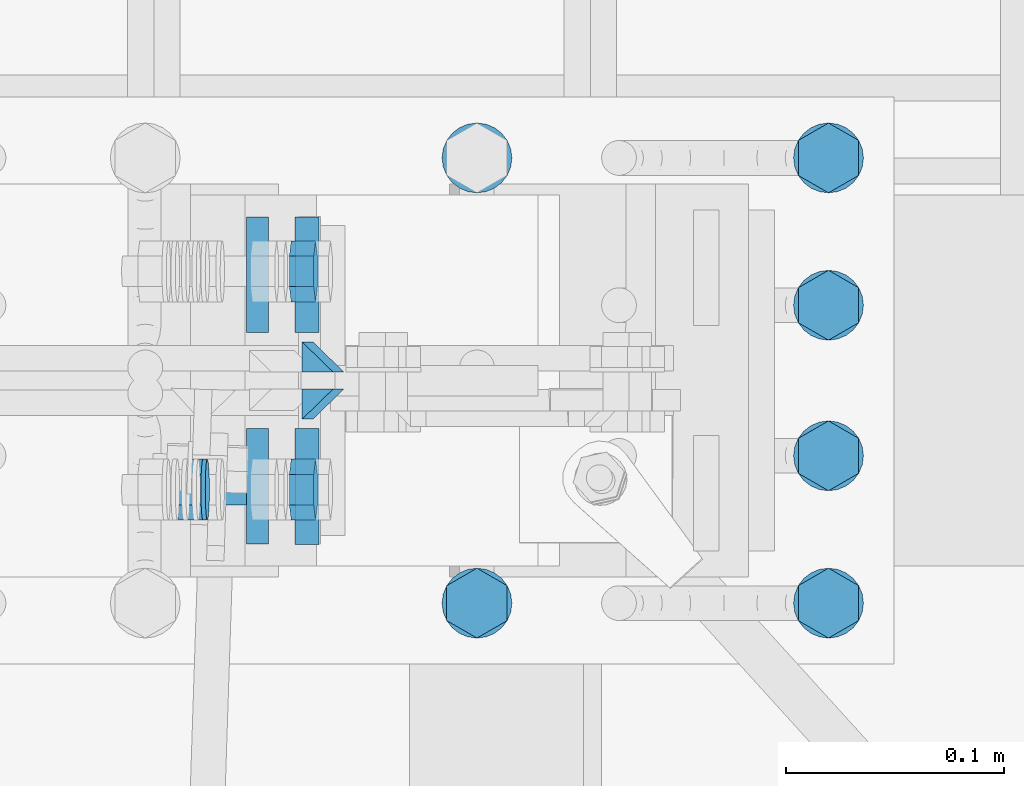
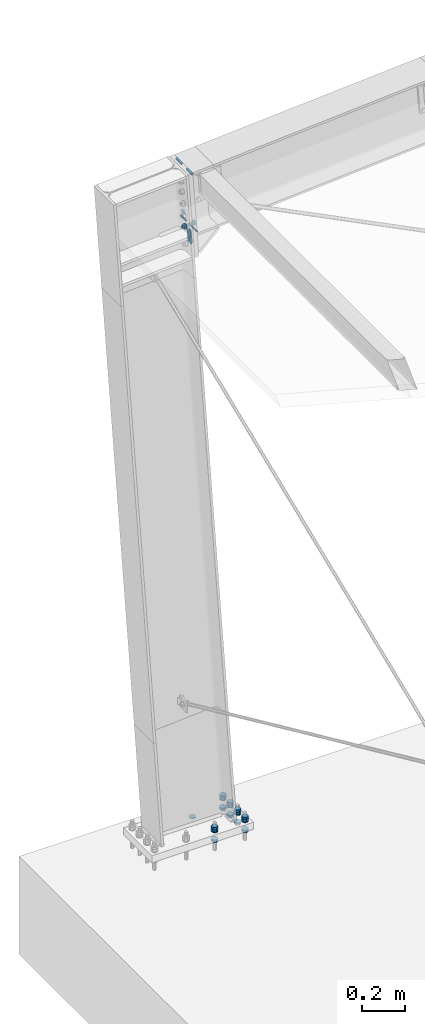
# One storey, part 66 of 72: 31 mechanical fasteners, 12 fasteners.
"""IFC4 building model written with IfcOpenShell, lengths in metres."""

from ifc_helpers import new_model, si_unit, frame, origin_with_axes, place, context, project, spatial, polyline, outline, extrude, type_object, element, save


model = new_model("IFC4")

# Units and contexts
model_context = context("Model", 3, precision=1e-05, world=origin_with_axes())
ifc_project = project(units=[si_unit("LENGTHUNIT", "METRE"), si_unit("AREAUNIT", "SQUARE_METRE"), si_unit("VOLUMEUNIT", "CUBIC_METRE"), si_unit("MASSUNIT", "GRAM", prefix="KILO"), si_unit("TIMEUNIT", "SECOND"), si_unit("PLANEANGLEUNIT", "RADIAN"), si_unit("SOLIDANGLEUNIT", "STERADIAN"), si_unit("THERMODYNAMICTEMPERATUREUNIT", "DEGREE_CELSIUS")], contexts=[model_context])

# Site, building, storey
placement_1 = place(None, origin_with_axes())
site = spatial("IfcSite", under=ifc_project, at=placement_1, Name="Italia", CompositionType="ELEMENT")
building = spatial("IfcBuilding", under=site, at=placement_1, Name="Pensilina", CompositionType="ELEMENT")
storey = spatial("IfcBuildingStorey", under=building, at=placement_1, Name="Storey 0", CompositionType="ELEMENT", Elevation=0.0)

# Mechanical fasteners
mechanical_fastener_type_1 = type_object("IfcMechanicalFastenerType", Name="Collegamento 0005_-200", PredefinedType="BOLT")
placement_2 = place(placement_1, origin_with_axes())
mechanical_fastener_1_placement = place(placement_2, origin_with_axes())
element("IfcMechanicalFastener", 1, at=mechanical_fastener_1_placement, inside=storey, type_object=mechanical_fastener_type_1, Name="Collegamento 0005_-200", NominalDiameter=0.032, context=model_context, shape_type="SweptSolid", body=[
    extrude(outline(polyline([(0.0, 0.0, 0.0), (-0.000545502, -0.00414109, 0.0), (-0.00214386, -0.00800002, 0.0), (-0.00468636, -0.0113137, 0.0), (-0.00800133, -0.0138564, 0.0), (-0.0118599, -0.0154548, 0.0), (-0.0160007, -0.016, 0.0), (-0.0201416, -0.0154548, 0.0), (-0.0240002, -0.0138564, 0.0), (-0.0273151, -0.0113137, 0.0), (-0.0298576, -0.00800002, 0.0), (-0.031456, -0.00414109, 0.0), (-0.0320015, 0.0, 0.0), (-0.031456, 0.00414109, 0.0), (-0.0298576, 0.00800002, 0.0), (-0.0273151, 0.0113137, 0.0), (-0.0240002, 0.0138564, 0.0), (-0.0201416, 0.0154548, 0.0), (-0.0160007, 0.016, 0.0), (-0.0118599, 0.0154548, 0.0), (-0.00800133, 0.0138564, 0.0), (-0.00468636, 0.0113137, 0.0), (-0.00214386, 0.00800002, 0.0), (-0.000545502, 0.00414109, 0.0), (0.0, 0.0, 0.0)])), frame((1.00805, 21.238, 0.0597081), z_axis=(0.0, 0.0, 1.0), x_axis=(0.0, 1.0, 0.0)), (0.0, 0.0, 1.0), 0.004),
])
mechanical_fastener_type_2 = type_object("IfcMechanicalFastenerType", Name="Collegamento 0005_-200", PredefinedType="BOLT")
mechanical_fastener_2_placement = place(placement_2, origin_with_axes())
element("IfcMechanicalFastener", 2, at=mechanical_fastener_2_placement, inside=storey, type_object=mechanical_fastener_type_2, Name="Collegamento 0005_-200", NominalDiameter=0.0159997, context=model_context, shape_type="SweptSolid", body=[
    extrude(outline(polyline([(0.0, 0.0, 0.0), (0.0160007, 0.0, 0.0), (0.0240002, -0.0138565, 0.0), (0.0160007, -0.0277129, 0.0), (0.0, -0.0277129, 0.0), (-0.00799942, -0.0138565, 0.0), (0.0, 0.0, 0.0)])), frame((0.99419, 21.01, 0.107708), z_axis=(0.0, 0.0, 1.0), x_axis=(0.0, 1.0, 0.0)), (0.0, 0.0, 1.0), 0.0128),
])
mechanical_fastener_type_3 = type_object("IfcMechanicalFastenerType", Name="Collegamento 0005_-200", PredefinedType="BOLT")
mechanical_fastener_3_placement = place(placement_2, origin_with_axes())
element("IfcMechanicalFastener", 3, at=mechanical_fastener_3_placement, inside=storey, type_object=mechanical_fastener_type_3, Name="Collegamento 0005_-200", NominalDiameter=0.0159997, context=model_context, shape_type="SweptSolid", body=[
    extrude(outline(polyline([(0.0, 0.0, 0.0), (0.0160007, 0.0, 0.0), (0.0240002, -0.0138565, 0.0), (0.0160007, -0.0277129, 0.0), (0.0, -0.0277129, 0.0), (-0.00799942, -0.0138565, 0.0), (0.0, 0.0, 0.0)])), frame((0.99419, 21.01, 0.120508), z_axis=(0.0, 0.0, 1.0), x_axis=(0.0, 1.0, 0.0)), (0.0, 0.0, 1.0), 0.0128),
])
mechanical_fastener_type_4 = type_object("IfcMechanicalFastenerType", Name="Collegamento 0005_-200", PredefinedType="BOLT")
mechanical_fastener_4_placement = place(placement_2, origin_with_axes())
element("IfcMechanicalFastener", 4, at=mechanical_fastener_4_placement, inside=storey, type_object=mechanical_fastener_type_4, Name="Collegamento 0005_-200", NominalDiameter=0.0159997, context=model_context, shape_type="SweptSolid", body=[
    extrude(outline(polyline([(0.0, 0.0, 0.0), (0.0160007, 0.0, 0.0), (0.0240002, -0.0138565, 0.0), (0.0160007, -0.0277129, 0.0), (0.0, -0.0277129, 0.0), (-0.00799942, -0.0138565, 0.0), (0.0, 0.0, 0.0)])), frame((0.99419, 21.01, 0.0469081), z_axis=(0.0, 0.0, 1.0), x_axis=(0.0, 1.0, 0.0)), (0.0, 0.0, 1.0), 0.0128),
])
mechanical_fastener_type_5 = type_object("IfcMechanicalFastenerType", Name="Collegamento 0005_-200", PredefinedType="BOLT")
mechanical_fastener_5_placement = place(placement_2, origin_with_axes())
element("IfcMechanicalFastener", 5, at=mechanical_fastener_5_placement, inside=storey, type_object=mechanical_fastener_type_5, Name="Collegamento 0005_-200", NominalDiameter=0.032, context=model_context, shape_type="SweptSolid", body=[
    extrude(outline(polyline([(0.0, 0.0, 0.0), (-0.000545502, -0.00414109, 0.0), (-0.00214386, -0.00800002, 0.0), (-0.00468636, -0.0113137, 0.0), (-0.00800133, -0.0138564, 0.0), (-0.0118599, -0.0154548, 0.0), (-0.0160007, -0.016, 0.0), (-0.0201416, -0.0154548, 0.0), (-0.0240002, -0.0138564, 0.0), (-0.0273151, -0.0113137, 0.0), (-0.0298576, -0.00800002, 0.0), (-0.031456, -0.00414109, 0.0), (-0.0320015, 0.0, 0.0), (-0.031456, 0.00414109, 0.0), (-0.0298576, 0.00800002, 0.0), (-0.0273151, 0.0113137, 0.0), (-0.0240002, 0.0138564, 0.0), (-0.0201416, 0.0154548, 0.0), (-0.0160007, 0.016, 0.0), (-0.0118599, 0.0154548, 0.0), (-0.00800133, 0.0138564, 0.0), (-0.00468636, 0.0113137, 0.0), (-0.00214386, 0.00800002, 0.0), (-0.000545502, 0.00414109, 0.0), (0.0, 0.0, 0.0)])), frame((1.00805, 21.034, 0.103708), z_axis=(0.0, 0.0, 1.0), x_axis=(0.0, 1.0, 0.0)), (0.0, 0.0, 1.0), 0.004),
])
mechanical_fastener_type_6 = type_object("IfcMechanicalFastenerType", Name="Collegamento 0005_-200", PredefinedType="BOLT")
mechanical_fastener_6_placement = place(placement_2, origin_with_axes())
element("IfcMechanicalFastener", 6, at=mechanical_fastener_6_placement, inside=storey, type_object=mechanical_fastener_type_6, Name="Collegamento 0005_-200", NominalDiameter=0.032, context=model_context, shape_type="SweptSolid", body=[
    extrude(outline(polyline([(0.0, 0.0, 0.0), (-0.000545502, -0.00414109, 0.0), (-0.00214386, -0.00800002, 0.0), (-0.00468636, -0.0113137, 0.0), (-0.00800133, -0.0138564, 0.0), (-0.0118599, -0.0154548, 0.0), (-0.0160007, -0.016, 0.0), (-0.0201416, -0.0154548, 0.0), (-0.0240002, -0.0138564, 0.0), (-0.0273151, -0.0113137, 0.0), (-0.0298576, -0.00800002, 0.0), (-0.031456, -0.00414109, 0.0), (-0.0320015, 0.0, 0.0), (-0.031456, 0.00414109, 0.0), (-0.0298576, 0.00800002, 0.0), (-0.0273151, 0.0113137, 0.0), (-0.0240002, 0.0138564, 0.0), (-0.0201416, 0.0154548, 0.0), (-0.0160007, 0.016, 0.0), (-0.0118599, 0.0154548, 0.0), (-0.00800133, 0.0138564, 0.0), (-0.00468636, 0.0113137, 0.0), (-0.00214386, 0.00800002, 0.0), (-0.000545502, 0.00414109, 0.0), (0.0, 0.0, 0.0)])), frame((1.00805, 21.034, 0.0597081), z_axis=(0.0, 0.0, 1.0), x_axis=(0.0, 1.0, 0.0)), (0.0, 0.0, 1.0), 0.004),
])
mechanical_fastener_type_7 = type_object("IfcMechanicalFastenerType", Name="Collegamento 0005_-200", PredefinedType="BOLT")
mechanical_fastener_7_placement = place(placement_2, origin_with_axes())
element("IfcMechanicalFastener", 7, at=mechanical_fastener_7_placement, inside=storey, type_object=mechanical_fastener_type_7, Name="Collegamento 0005_-200", NominalDiameter=0.0159997, context=model_context, shape_type="SweptSolid", body=[
    extrude(outline(polyline([(0.0, 0.0, 0.0), (0.0160007, 0.0, 0.0), (0.0240002, -0.0138564, 0.0), (0.0160007, -0.0277128, 0.0), (0.0, -0.0277128, 0.0), (-0.00799942, -0.0138564, 0.0), (0.0, 0.0, 0.0)])), frame((1.15527, 21.214, 0.107708), z_axis=(0.0, 0.0, 1.0), x_axis=(0.0, 1.0, 0.0)), (0.0, 0.0, 1.0), 0.0128),
])
mechanical_fastener_type_8 = type_object("IfcMechanicalFastenerType", Name="Collegamento 0005_-200", PredefinedType="BOLT")
mechanical_fastener_8_placement = place(placement_2, origin_with_axes())
element("IfcMechanicalFastener", 8, at=mechanical_fastener_8_placement, inside=storey, type_object=mechanical_fastener_type_8, Name="Collegamento 0005_-200", NominalDiameter=0.0159997, context=model_context, shape_type="SweptSolid", body=[
    extrude(outline(polyline([(0.0, 0.0, 0.0), (0.0160007, 0.0, 0.0), (0.0240002, -0.0138564, 0.0), (0.0160007, -0.0277128, 0.0), (0.0, -0.0277128, 0.0), (-0.00799942, -0.0138564, 0.0), (0.0, 0.0, 0.0)])), frame((1.15527, 21.214, 0.120508), z_axis=(0.0, 0.0, 1.0), x_axis=(0.0, 1.0, 0.0)), (0.0, 0.0, 1.0), 0.0128),
])
mechanical_fastener_type_9 = type_object("IfcMechanicalFastenerType", Name="Collegamento 0005_-200", PredefinedType="BOLT")
mechanical_fastener_9_placement = place(placement_2, origin_with_axes())
element("IfcMechanicalFastener", 9, at=mechanical_fastener_9_placement, inside=storey, type_object=mechanical_fastener_type_9, Name="Collegamento 0005_-200", NominalDiameter=0.0159997, context=model_context, shape_type="SweptSolid", body=[
    extrude(outline(polyline([(0.0, 0.0, 0.0), (0.0160007, 0.0, 0.0), (0.0240002, -0.0138564, 0.0), (0.0160007, -0.0277128, 0.0), (0.0, -0.0277128, 0.0), (-0.00799942, -0.0138564, 0.0), (0.0, 0.0, 0.0)])), frame((1.15527, 21.214, 0.0469081), z_axis=(0.0, 0.0, 1.0), x_axis=(0.0, 1.0, 0.0)), (0.0, 0.0, 1.0), 0.0128),
])
mechanical_fastener_type_10 = type_object("IfcMechanicalFastenerType", Name="Collegamento 0005_-200", PredefinedType="BOLT")
mechanical_fastener_10_placement = place(placement_2, origin_with_axes())
element("IfcMechanicalFastener", 10, at=mechanical_fastener_10_placement, inside=storey, type_object=mechanical_fastener_type_10, Name="Collegamento 0005_-200", NominalDiameter=0.032, context=model_context, shape_type="SweptSolid", body=[
    extrude(outline(polyline([(0.0, 0.0, 0.0), (-0.000545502, -0.00414109, 0.0), (-0.00214386, -0.00800002, 0.0), (-0.00468636, -0.0113137, 0.0), (-0.00800133, -0.0138564, 0.0), (-0.0118599, -0.0154548, 0.0), (-0.0160007, -0.016, 0.0), (-0.0201416, -0.0154548, 0.0), (-0.0240002, -0.0138564, 0.0), (-0.0273151, -0.0113137, 0.0), (-0.0298576, -0.00800002, 0.0), (-0.031456, -0.00414109, 0.0), (-0.0320015, 0.0, 0.0), (-0.031456, 0.00414109, 0.0), (-0.0298576, 0.00800002, 0.0), (-0.0273151, 0.0113137, 0.0), (-0.0240002, 0.0138564, 0.0), (-0.0201416, 0.0154548, 0.0), (-0.0160007, 0.016, 0.0), (-0.0118599, 0.0154548, 0.0), (-0.00800133, 0.0138564, 0.0), (-0.00468636, 0.0113137, 0.0), (-0.00214386, 0.00800002, 0.0), (-0.000545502, 0.00414109, 0.0), (0.0, 0.0, 0.0)])), frame((1.16913, 21.238, 0.103708), z_axis=(0.0, 0.0, 1.0), x_axis=(0.0, 1.0, 0.0)), (0.0, 0.0, 1.0), 0.004),
])
mechanical_fastener_type_11 = type_object("IfcMechanicalFastenerType", Name="Collegamento 0005_-200", PredefinedType="BOLT")
mechanical_fastener_11_placement = place(placement_2, origin_with_axes())
element("IfcMechanicalFastener", 11, at=mechanical_fastener_11_placement, inside=storey, type_object=mechanical_fastener_type_11, Name="Collegamento 0005_-200", NominalDiameter=0.032, context=model_context, shape_type="SweptSolid", body=[
    extrude(outline(polyline([(0.0, 0.0, 0.0), (-0.000545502, -0.00414109, 0.0), (-0.00214386, -0.00800002, 0.0), (-0.00468636, -0.0113137, 0.0), (-0.00800133, -0.0138564, 0.0), (-0.0118599, -0.0154548, 0.0), (-0.0160007, -0.016, 0.0), (-0.0201416, -0.0154548, 0.0), (-0.0240002, -0.0138564, 0.0), (-0.0273151, -0.0113137, 0.0), (-0.0298576, -0.00800002, 0.0), (-0.031456, -0.00414109, 0.0), (-0.0320015, 0.0, 0.0), (-0.031456, 0.00414109, 0.0), (-0.0298576, 0.00800002, 0.0), (-0.0273151, 0.0113137, 0.0), (-0.0240002, 0.0138564, 0.0), (-0.0201416, 0.0154548, 0.0), (-0.0160007, 0.016, 0.0), (-0.0118599, 0.0154548, 0.0), (-0.00800133, 0.0138564, 0.0), (-0.00468636, 0.0113137, 0.0), (-0.00214386, 0.00800002, 0.0), (-0.000545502, 0.00414109, 0.0), (0.0, 0.0, 0.0)])), frame((1.16913, 21.238, 0.0597081), z_axis=(0.0, 0.0, 1.0), x_axis=(0.0, 1.0, 0.0)), (0.0, 0.0, 1.0), 0.004),
])
mechanical_fastener_type_12 = type_object("IfcMechanicalFastenerType", Name="Collegamento 0005_-200", PredefinedType="BOLT")
mechanical_fastener_12_placement = place(placement_2, origin_with_axes())
element("IfcMechanicalFastener", 12, at=mechanical_fastener_12_placement, inside=storey, type_object=mechanical_fastener_type_12, Name="Collegamento 0005_-200", NominalDiameter=0.0159988, context=model_context, shape_type="SweptSolid", body=[
    extrude(outline(polyline([(0.0, 0.0, 0.0), (0.0159988, 0.0, 0.0), (0.0240002, -0.0138564, 0.0), (0.0159988, -0.0277128, 0.0), (0.0, -0.0277128, 0.0), (-0.00800133, -0.0138564, 0.0), (0.0, 0.0, 0.0)])), frame((1.15527, 21.1465, 0.107708), z_axis=(0.0, 0.0, 1.0), x_axis=(0.0, 1.0, 0.0)), (0.0, 0.0, 1.0), 0.0128),
])
mechanical_fastener_type_13 = type_object("IfcMechanicalFastenerType", Name="Collegamento 0005_-200", PredefinedType="BOLT")
mechanical_fastener_13_placement = place(placement_2, origin_with_axes())
element("IfcMechanicalFastener", 13, at=mechanical_fastener_13_placement, inside=storey, type_object=mechanical_fastener_type_13, Name="Collegamento 0005_-200", NominalDiameter=0.0159988, context=model_context, shape_type="SweptSolid", body=[
    extrude(outline(polyline([(0.0, 0.0, 0.0), (0.0159988, 0.0, 0.0), (0.0240002, -0.0138564, 0.0), (0.0159988, -0.0277128, 0.0), (0.0, -0.0277128, 0.0), (-0.00800133, -0.0138564, 0.0), (0.0, 0.0, 0.0)])), frame((1.15527, 21.1465, 0.120508), z_axis=(0.0, 0.0, 1.0), x_axis=(0.0, 1.0, 0.0)), (0.0, 0.0, 1.0), 0.0128),
])
mechanical_fastener_type_14 = type_object("IfcMechanicalFastenerType", Name="Collegamento 0005_-200", PredefinedType="BOLT")
mechanical_fastener_14_placement = place(placement_2, origin_with_axes())
element("IfcMechanicalFastener", 14, at=mechanical_fastener_14_placement, inside=storey, type_object=mechanical_fastener_type_14, Name="Collegamento 0005_-200", NominalDiameter=0.0159988, context=model_context, shape_type="SweptSolid", body=[
    extrude(outline(polyline([(0.0, 0.0, 0.0), (0.0159988, 0.0, 0.0), (0.0240002, -0.0138564, 0.0), (0.0159988, -0.0277128, 0.0), (0.0, -0.0277128, 0.0), (-0.00800133, -0.0138564, 0.0), (0.0, 0.0, 0.0)])), frame((1.15527, 21.1465, 0.0469081), z_axis=(0.0, 0.0, 1.0), x_axis=(0.0, 1.0, 0.0)), (0.0, 0.0, 1.0), 0.0128),
])
mechanical_fastener_type_15 = type_object("IfcMechanicalFastenerType", Name="Collegamento 0005_-200", PredefinedType="BOLT")
mechanical_fastener_15_placement = place(placement_2, origin_with_axes())
element("IfcMechanicalFastener", 15, at=mechanical_fastener_15_placement, inside=storey, type_object=mechanical_fastener_type_15, Name="Collegamento 0005_-200", NominalDiameter=0.032, context=model_context, shape_type="SweptSolid", body=[
    extrude(outline(polyline([(0.0, 0.0, 0.0), (-0.000545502, -0.00414109, 0.0), (-0.00214386, -0.00800002, 0.0), (-0.00468636, -0.0113137, 0.0), (-0.00800133, -0.0138564, 0.0), (-0.0118599, -0.0154548, 0.0), (-0.0160007, -0.016, 0.0), (-0.0201416, -0.0154548, 0.0), (-0.0240002, -0.0138564, 0.0), (-0.0273151, -0.0113137, 0.0), (-0.0298576, -0.00800002, 0.0), (-0.031456, -0.00414109, 0.0), (-0.0320015, 0.0, 0.0), (-0.031456, 0.00414109, 0.0), (-0.0298576, 0.00800002, 0.0), (-0.0273151, 0.0113137, 0.0), (-0.0240002, 0.0138564, 0.0), (-0.0201416, 0.0154548, 0.0), (-0.0160007, 0.016, 0.0), (-0.0118599, 0.0154548, 0.0), (-0.00800133, 0.0138564, 0.0), (-0.00468636, 0.0113137, 0.0), (-0.00214386, 0.00800002, 0.0), (-0.000545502, 0.00414109, 0.0), (0.0, 0.0, 0.0)])), frame((1.16913, 21.1705, 0.103708), z_axis=(0.0, 0.0, 1.0), x_axis=(0.0, 1.0, 0.0)), (0.0, 0.0, 1.0), 0.004),
])
mechanical_fastener_type_16 = type_object("IfcMechanicalFastenerType", Name="Collegamento 0005_-200", PredefinedType="BOLT")
mechanical_fastener_16_placement = place(placement_2, origin_with_axes())
element("IfcMechanicalFastener", 16, at=mechanical_fastener_16_placement, inside=storey, type_object=mechanical_fastener_type_16, Name="Collegamento 0005_-200", NominalDiameter=0.032, context=model_context, shape_type="SweptSolid", body=[
    extrude(outline(polyline([(0.0, 0.0, 0.0), (-0.000545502, -0.00414109, 0.0), (-0.00214386, -0.00800002, 0.0), (-0.00468636, -0.0113137, 0.0), (-0.00800133, -0.0138564, 0.0), (-0.0118599, -0.0154548, 0.0), (-0.0160007, -0.016, 0.0), (-0.0201416, -0.0154548, 0.0), (-0.0240002, -0.0138564, 0.0), (-0.0273151, -0.0113137, 0.0), (-0.0298576, -0.00800002, 0.0), (-0.031456, -0.00414109, 0.0), (-0.0320015, 0.0, 0.0), (-0.031456, 0.00414109, 0.0), (-0.0298576, 0.00800002, 0.0), (-0.0273151, 0.0113137, 0.0), (-0.0240002, 0.0138564, 0.0), (-0.0201416, 0.0154548, 0.0), (-0.0160007, 0.016, 0.0), (-0.0118599, 0.0154548, 0.0), (-0.00800133, 0.0138564, 0.0), (-0.00468636, 0.0113137, 0.0), (-0.00214386, 0.00800002, 0.0), (-0.000545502, 0.00414109, 0.0), (0.0, 0.0, 0.0)])), frame((1.16913, 21.1705, 0.0597081), z_axis=(0.0, 0.0, 1.0), x_axis=(0.0, 1.0, 0.0)), (0.0, 0.0, 1.0), 0.004),
])
mechanical_fastener_type_17 = type_object("IfcMechanicalFastenerType", Name="Collegamento 0005_-200", PredefinedType="BOLT")
mechanical_fastener_17_placement = place(placement_2, origin_with_axes())
element("IfcMechanicalFastener", 17, at=mechanical_fastener_17_placement, inside=storey, type_object=mechanical_fastener_type_17, Name="Collegamento 0005_-200", NominalDiameter=0.0159988, context=model_context, shape_type="SweptSolid", body=[
    extrude(outline(polyline([(0.0, 0.0, 0.0), (0.0159988, 0.0, 0.0), (0.0240002, -0.0138564, 0.0), (0.0159988, -0.0277128, 0.0), (0.0, -0.0277128, 0.0), (-0.00800133, -0.0138564, 0.0), (0.0, 0.0, 0.0)])), frame((1.15527, 21.0775, 0.107708), z_axis=(0.0, 0.0, 1.0), x_axis=(0.0, 1.0, 0.0)), (0.0, 0.0, 1.0), 0.0128),
])
mechanical_fastener_type_18 = type_object("IfcMechanicalFastenerType", Name="Collegamento 0005_-200", PredefinedType="BOLT")
mechanical_fastener_18_placement = place(placement_2, origin_with_axes())
element("IfcMechanicalFastener", 18, at=mechanical_fastener_18_placement, inside=storey, type_object=mechanical_fastener_type_18, Name="Collegamento 0005_-200", NominalDiameter=0.0159988, context=model_context, shape_type="SweptSolid", body=[
    extrude(outline(polyline([(0.0, 0.0, 0.0), (0.0159988, 0.0, 0.0), (0.0240002, -0.0138564, 0.0), (0.0159988, -0.0277128, 0.0), (0.0, -0.0277128, 0.0), (-0.00800133, -0.0138564, 0.0), (0.0, 0.0, 0.0)])), frame((1.15527, 21.0775, 0.120508), z_axis=(0.0, 0.0, 1.0), x_axis=(0.0, 1.0, 0.0)), (0.0, 0.0, 1.0), 0.0128),
])
mechanical_fastener_type_19 = type_object("IfcMechanicalFastenerType", Name="Collegamento 0005_-200", PredefinedType="BOLT")
mechanical_fastener_19_placement = place(placement_2, origin_with_axes())
element("IfcMechanicalFastener", 19, at=mechanical_fastener_19_placement, inside=storey, type_object=mechanical_fastener_type_19, Name="Collegamento 0005_-200", NominalDiameter=0.0159988, context=model_context, shape_type="SweptSolid", body=[
    extrude(outline(polyline([(0.0, 0.0, 0.0), (0.0159988, 0.0, 0.0), (0.0240002, -0.0138564, 0.0), (0.0159988, -0.0277128, 0.0), (0.0, -0.0277128, 0.0), (-0.00800133, -0.0138564, 0.0), (0.0, 0.0, 0.0)])), frame((1.15527, 21.0775, 0.0469081), z_axis=(0.0, 0.0, 1.0), x_axis=(0.0, 1.0, 0.0)), (0.0, 0.0, 1.0), 0.0128),
])
mechanical_fastener_type_20 = type_object("IfcMechanicalFastenerType", Name="Collegamento 0005_-200", PredefinedType="BOLT")
mechanical_fastener_20_placement = place(placement_2, origin_with_axes())
element("IfcMechanicalFastener", 20, at=mechanical_fastener_20_placement, inside=storey, type_object=mechanical_fastener_type_20, Name="Collegamento 0005_-200", NominalDiameter=0.032, context=model_context, shape_type="SweptSolid", body=[
    extrude(outline(polyline([(0.0, 0.0, 0.0), (-0.000545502, -0.00414109, 0.0), (-0.00214386, -0.00800002, 0.0), (-0.00468636, -0.0113137, 0.0), (-0.00800133, -0.0138564, 0.0), (-0.0118599, -0.0154548, 0.0), (-0.0160007, -0.016, 0.0), (-0.0201416, -0.0154548, 0.0), (-0.0240002, -0.0138564, 0.0), (-0.0273151, -0.0113137, 0.0), (-0.0298576, -0.00800002, 0.0), (-0.031456, -0.00414109, 0.0), (-0.0320015, 0.0, 0.0), (-0.031456, 0.00414109, 0.0), (-0.0298576, 0.00800002, 0.0), (-0.0273151, 0.0113137, 0.0), (-0.0240002, 0.0138564, 0.0), (-0.0201416, 0.0154548, 0.0), (-0.0160007, 0.016, 0.0), (-0.0118599, 0.0154548, 0.0), (-0.00800133, 0.0138564, 0.0), (-0.00468636, 0.0113137, 0.0), (-0.00214386, 0.00800002, 0.0), (-0.000545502, 0.00414109, 0.0), (0.0, 0.0, 0.0)])), frame((1.16913, 21.1015, 0.103708), z_axis=(0.0, 0.0, 1.0), x_axis=(0.0, 1.0, 0.0)), (0.0, 0.0, 1.0), 0.004),
])
mechanical_fastener_type_21 = type_object("IfcMechanicalFastenerType", Name="Collegamento 0005_-200", PredefinedType="BOLT")
mechanical_fastener_21_placement = place(placement_2, origin_with_axes())
element("IfcMechanicalFastener", 21, at=mechanical_fastener_21_placement, inside=storey, type_object=mechanical_fastener_type_21, Name="Collegamento 0005_-200", NominalDiameter=0.032, context=model_context, shape_type="SweptSolid", body=[
    extrude(outline(polyline([(0.0, 0.0, 0.0), (-0.000545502, -0.00414109, 0.0), (-0.00214386, -0.00800002, 0.0), (-0.00468636, -0.0113137, 0.0), (-0.00800133, -0.0138564, 0.0), (-0.0118599, -0.0154548, 0.0), (-0.0160007, -0.016, 0.0), (-0.0201416, -0.0154548, 0.0), (-0.0240002, -0.0138564, 0.0), (-0.0273151, -0.0113137, 0.0), (-0.0298576, -0.00800002, 0.0), (-0.031456, -0.00414109, 0.0), (-0.0320015, 0.0, 0.0), (-0.031456, 0.00414109, 0.0), (-0.0298576, 0.00800002, 0.0), (-0.0273151, 0.0113137, 0.0), (-0.0240002, 0.0138564, 0.0), (-0.0201416, 0.0154548, 0.0), (-0.0160007, 0.016, 0.0), (-0.0118599, 0.0154548, 0.0), (-0.00800133, 0.0138564, 0.0), (-0.00468636, 0.0113137, 0.0), (-0.00214386, 0.00800002, 0.0), (-0.000545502, 0.00414109, 0.0), (0.0, 0.0, 0.0)])), frame((1.16913, 21.1015, 0.0597081), z_axis=(0.0, 0.0, 1.0), x_axis=(0.0, 1.0, 0.0)), (0.0, 0.0, 1.0), 0.004),
])
mechanical_fastener_type_22 = type_object("IfcMechanicalFastenerType", Name="Collegamento 0005_-200", PredefinedType="BOLT")
mechanical_fastener_22_placement = place(placement_2, origin_with_axes())
element("IfcMechanicalFastener", 22, at=mechanical_fastener_22_placement, inside=storey, type_object=mechanical_fastener_type_22, Name="Collegamento 0005_-200", NominalDiameter=0.0159997, context=model_context, shape_type="SweptSolid", body=[
    extrude(outline(polyline([(0.0, 0.0, 0.0), (0.0160007, 0.0, 0.0), (0.0240002, -0.0138564, 0.0), (0.0160007, -0.0277128, 0.0), (0.0, -0.0277128, 0.0), (-0.00799942, -0.0138564, 0.0), (0.0, 0.0, 0.0)])), frame((1.15527, 21.01, 0.107708), z_axis=(0.0, 0.0, 1.0), x_axis=(0.0, 1.0, 0.0)), (0.0, 0.0, 1.0), 0.0128),
])
mechanical_fastener_type_23 = type_object("IfcMechanicalFastenerType", Name="Collegamento 0005_-200", PredefinedType="BOLT")
mechanical_fastener_23_placement = place(placement_2, origin_with_axes())
element("IfcMechanicalFastener", 23, at=mechanical_fastener_23_placement, inside=storey, type_object=mechanical_fastener_type_23, Name="Collegamento 0005_-200", NominalDiameter=0.0159997, context=model_context, shape_type="SweptSolid", body=[
    extrude(outline(polyline([(0.0, 0.0, 0.0), (0.0160007, 0.0, 0.0), (0.0240002, -0.0138564, 0.0), (0.0160007, -0.0277128, 0.0), (0.0, -0.0277128, 0.0), (-0.00799942, -0.0138564, 0.0), (0.0, 0.0, 0.0)])), frame((1.15527, 21.01, 0.120508), z_axis=(0.0, 0.0, 1.0), x_axis=(0.0, 1.0, 0.0)), (0.0, 0.0, 1.0), 0.0128),
])
mechanical_fastener_type_24 = type_object("IfcMechanicalFastenerType", Name="Collegamento 0005_-200", PredefinedType="BOLT")
mechanical_fastener_24_placement = place(placement_2, origin_with_axes())
element("IfcMechanicalFastener", 24, at=mechanical_fastener_24_placement, inside=storey, type_object=mechanical_fastener_type_24, Name="Collegamento 0005_-200", NominalDiameter=0.0159997, context=model_context, shape_type="SweptSolid", body=[
    extrude(outline(polyline([(0.0, 0.0, 0.0), (0.0160007, 0.0, 0.0), (0.0240002, -0.0138564, 0.0), (0.0160007, -0.0277128, 0.0), (0.0, -0.0277128, 0.0), (-0.00799942, -0.0138564, 0.0), (0.0, 0.0, 0.0)])), frame((1.15527, 21.01, 0.0469081), z_axis=(0.0, 0.0, 1.0), x_axis=(0.0, 1.0, 0.0)), (0.0, 0.0, 1.0), 0.0128),
])
mechanical_fastener_type_25 = type_object("IfcMechanicalFastenerType", Name="Collegamento 0005_-200", PredefinedType="BOLT")
mechanical_fastener_25_placement = place(placement_2, origin_with_axes())
element("IfcMechanicalFastener", 25, at=mechanical_fastener_25_placement, inside=storey, type_object=mechanical_fastener_type_25, Name="Collegamento 0005_-200", NominalDiameter=0.032, context=model_context, shape_type="SweptSolid", body=[
    extrude(outline(polyline([(0.0, 0.0, 0.0), (-0.000545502, -0.00414109, 0.0), (-0.00214386, -0.00800002, 0.0), (-0.00468636, -0.0113137, 0.0), (-0.00800133, -0.0138564, 0.0), (-0.0118599, -0.0154548, 0.0), (-0.0160007, -0.016, 0.0), (-0.0201416, -0.0154548, 0.0), (-0.0240002, -0.0138564, 0.0), (-0.0273151, -0.0113137, 0.0), (-0.0298576, -0.00800002, 0.0), (-0.031456, -0.00414109, 0.0), (-0.0320015, 0.0, 0.0), (-0.031456, 0.00414109, 0.0), (-0.0298576, 0.00800002, 0.0), (-0.0273151, 0.0113137, 0.0), (-0.0240002, 0.0138564, 0.0), (-0.0201416, 0.0154548, 0.0), (-0.0160007, 0.016, 0.0), (-0.0118599, 0.0154548, 0.0), (-0.00800133, 0.0138564, 0.0), (-0.00468636, 0.0113137, 0.0), (-0.00214386, 0.00800002, 0.0), (-0.000545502, 0.00414109, 0.0), (0.0, 0.0, 0.0)])), frame((1.16913, 21.034, 0.103708), z_axis=(0.0, 0.0, 1.0), x_axis=(0.0, 1.0, 0.0)), (0.0, 0.0, 1.0), 0.004),
])
mechanical_fastener_type_26 = type_object("IfcMechanicalFastenerType", Name="Collegamento 0005_-200", PredefinedType="BOLT")
mechanical_fastener_26_placement = place(placement_2, origin_with_axes())
element("IfcMechanicalFastener", 26, at=mechanical_fastener_26_placement, inside=storey, type_object=mechanical_fastener_type_26, Name="Collegamento 0005_-200", NominalDiameter=0.032, context=model_context, shape_type="SweptSolid", body=[
    extrude(outline(polyline([(0.0, 0.0, 0.0), (-0.000545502, -0.00414109, 0.0), (-0.00214386, -0.00800002, 0.0), (-0.00468636, -0.0113137, 0.0), (-0.00800133, -0.0138564, 0.0), (-0.0118599, -0.0154548, 0.0), (-0.0160007, -0.016, 0.0), (-0.0201416, -0.0154548, 0.0), (-0.0240002, -0.0138564, 0.0), (-0.0273151, -0.0113137, 0.0), (-0.0298576, -0.00800002, 0.0), (-0.031456, -0.00414109, 0.0), (-0.0320015, 0.0, 0.0), (-0.031456, 0.00414109, 0.0), (-0.0298576, 0.00800002, 0.0), (-0.0273151, 0.0113137, 0.0), (-0.0240002, 0.0138564, 0.0), (-0.0201416, 0.0154548, 0.0), (-0.0160007, 0.016, 0.0), (-0.0118599, 0.0154548, 0.0), (-0.00800133, 0.0138564, 0.0), (-0.00468636, 0.0113137, 0.0), (-0.00214386, 0.00800002, 0.0), (-0.000545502, 0.00414109, 0.0), (0.0, 0.0, 0.0)])), frame((1.16913, 21.034, 0.0597081), z_axis=(0.0, 0.0, 1.0), x_axis=(0.0, 1.0, 0.0)), (0.0, 0.0, 1.0), 0.004),
])

# Fasteners
fastener_type_1 = type_object("IfcFastenerType", Name="Collegamento 0105_0205", PredefinedType="WELD")
fastener_1_placement = place(placement_2, origin_with_axes())
element("IfcFastener", 27, at=fastener_1_placement, inside=storey, type_object=fastener_type_1, Name="Collegamento 0105_0205", context=model_context, shape_type="SweptSolid", body=[
    extrude(outline(polyline([(0.0, 0.0, 0.0), (-0.00947309, 0.0105422, 0.0), (0.000676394, 0.00984502, 0.0), (0.0, 0.0, 0.0)])), frame((0.903157, 21.1419, 3.80624), z_axis=(0.0, 1.0, 0.0), x_axis=(-1.0, 0.0, 0.0)), (0.0, 0.0, 1.0), 0.0530987),
])
fastener_type_2 = type_object("IfcFastenerType", Name="Collegamento 0105_0205", PredefinedType="WELD")
fastener_2_placement = place(placement_2, origin_with_axes())
element("IfcFastener", 28, at=fastener_2_placement, inside=storey, type_object=fastener_type_2, Name="Collegamento 0105_0205", context=model_context, shape_type="SweptSolid", body=[
    extrude(outline(polyline([(0.0, 0.0, 0.0), (0.0108258, -0.00914764, 0.0), (0.000676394, -0.00984478, 0.0), (0.0, 0.0, 0.0)])), frame((0.924744, 21.195, 3.49202), z_axis=(0.0, -1.0, 0.0), x_axis=(1.0, 0.0, 0.0)), (0.0, 0.0, 1.0), 0.0530987),
])
fastener_type_3 = type_object("IfcFastenerType", Name="Collegamento 0105_0205", PredefinedType="WELD")
fastener_3_placement = place(placement_2, origin_with_axes())
element("IfcFastener", 29, at=fastener_3_placement, inside=storey, type_object=fastener_type_3, Name="Collegamento 0105_0205", context=model_context, shape_type="SweptSolid", body=[
    extrude(outline(polyline([(0.0, 0.0, 0.0), (0.0108258, -0.00914764, 0.0), (0.000676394, -0.00984478, 0.0), (0.0, 0.0, 0.0)])), frame((0.924744, 21.098, 3.49202), z_axis=(0.0, -1.0, 0.0), x_axis=(1.0, 0.0, 0.0)), (0.0, 0.0, 1.0), 0.0530987),
])
fastener_type_4 = type_object("IfcFastenerType", Name="Collegamento 0105_0205", PredefinedType="WELD")
fastener_4_placement = place(placement_2, origin_with_axes())
element("IfcFastener", 30, at=fastener_4_placement, inside=storey, type_object=fastener_type_4, Name="Collegamento 0105_0205", context=model_context, shape_type="SweptSolid", body=[
    extrude(outline(polyline([(0.0, 0.0, 0.0), (-0.00947309, 0.0105422, 0.0), (0.000676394, 0.00984502, 0.0), (0.0, 0.0, 0.0)])), frame((0.903157, 21.045, 3.80624), z_axis=(0.0, 1.0, 0.0), x_axis=(-1.0, 0.0, 0.0)), (0.0, 0.0, 1.0), 0.0530987),
])
fastener_type_5 = type_object("IfcFastenerType", Name="Collegamento 0105_0205", PredefinedType="WELD")
fastener_5_placement = place(placement_2, origin_with_axes())
element("IfcFastener", 31, at=fastener_5_placement, inside=storey, type_object=fastener_type_5, Name="Collegamento 0105_0205", context=model_context, shape_type="SweptSolid", body=[
    extrude(outline(polyline([(0.0, 0.0, 0.0), (0.0137482, 0.0141734, 0.0), (0.0137482, 0.0, 0.0), (0.0, 0.0, 0.0)])), frame((0.932871, 21.1377, 3.37373), z_axis=(-0.068540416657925, 0.0, 0.997648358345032), x_axis=(0.0, -1.0, 0.0)), (0.0, 0.0, 1.0), 0.0721),
])
fastener_type_6 = type_object("IfcFastenerType", Name="Collegamento 0105_0205", PredefinedType="WELD")
fastener_6_placement = place(placement_2, origin_with_axes())
element("IfcFastener", 32, at=fastener_6_placement, inside=storey, type_object=fastener_type_6, Name="Collegamento 0105_0205", context=model_context, shape_type="SweptSolid", body=[
    extrude(outline(polyline([(0.0, 0.0, 0.0), (0.0137482, 0.0141734, 0.0), (0.0137482, 0.0, 0.0), (0.0, 0.0, 0.0)])), frame((0.927929, 21.1023, 3.44566), z_axis=(0.068540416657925, 0.0, -0.997648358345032), x_axis=(0.0, 1.0, 0.0)), (0.0, 0.0, 1.0), 0.0721),
])
fastener_type_7 = type_object("IfcFastenerType", Name="Collegamento 0105_0205", PredefinedType="WELD")
fastener_7_placement = place(placement_2, origin_with_axes())
element("IfcFastener", 33, at=fastener_7_placement, inside=storey, type_object=fastener_type_7, Name="Collegamento 0105_0205", context=model_context, shape_type="SweptSolid", body=[
    extrude(outline(polyline([(0.0, 0.0, 0.0), (-0.00947309, 0.0105422, 0.0), (0.000676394, 0.00984502, 0.0), (0.0, 0.0, 0.0)])), frame((0.903157, 21.1419, 3.80624), z_axis=(0.0, 1.0, 0.0), x_axis=(-1.0, 0.0, 0.0)), (0.0, 0.0, 1.0), 0.0530987),
])
fastener_type_8 = type_object("IfcFastenerType", Name="Collegamento 0105_0205", PredefinedType="WELD")
fastener_8_placement = place(placement_2, origin_with_axes())
element("IfcFastener", 34, at=fastener_8_placement, inside=storey, type_object=fastener_type_8, Name="Collegamento 0105_0205", context=model_context, shape_type="SweptSolid", body=[
    extrude(outline(polyline([(0.0, 0.0, 0.0), (0.0108258, -0.00914764, 0.0), (0.000676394, -0.00984478, 0.0), (0.0, 0.0, 0.0)])), frame((0.924744, 21.195, 3.49202), z_axis=(0.0, -1.0, 0.0), x_axis=(1.0, 0.0, 0.0)), (0.0, 0.0, 1.0), 0.0530987),
])
fastener_type_9 = type_object("IfcFastenerType", Name="Collegamento 0105_0205", PredefinedType="WELD")
fastener_9_placement = place(placement_2, origin_with_axes())
element("IfcFastener", 35, at=fastener_9_placement, inside=storey, type_object=fastener_type_9, Name="Collegamento 0105_0205", context=model_context, shape_type="SweptSolid", body=[
    extrude(outline(polyline([(0.0, 0.0, 0.0), (0.0108258, -0.00914764, 0.0), (0.000676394, -0.00984478, 0.0), (0.0, 0.0, 0.0)])), frame((0.924744, 21.098, 3.49202), z_axis=(0.0, -1.0, 0.0), x_axis=(1.0, 0.0, 0.0)), (0.0, 0.0, 1.0), 0.0530987),
])
fastener_type_10 = type_object("IfcFastenerType", Name="Collegamento 0105_0205", PredefinedType="WELD")
fastener_10_placement = place(placement_2, origin_with_axes())
element("IfcFastener", 36, at=fastener_10_placement, inside=storey, type_object=fastener_type_10, Name="Collegamento 0105_0205", context=model_context, shape_type="SweptSolid", body=[
    extrude(outline(polyline([(0.0, 0.0, 0.0), (-0.00947309, 0.0105422, 0.0), (0.000676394, 0.00984502, 0.0), (0.0, 0.0, 0.0)])), frame((0.903157, 21.045, 3.80624), z_axis=(0.0, 1.0, 0.0), x_axis=(-1.0, 0.0, 0.0)), (0.0, 0.0, 1.0), 0.0530987),
])
fastener_type_11 = type_object("IfcFastenerType", Name="Collegamento 0105_0205", PredefinedType="WELD")
fastener_11_placement = place(placement_2, origin_with_axes())
element("IfcFastener", 37, at=fastener_11_placement, inside=storey, type_object=fastener_type_11, Name="Collegamento 0105_0205", context=model_context, shape_type="SweptSolid", body=[
    extrude(outline(polyline([(0.0, 0.0, 0.0), (0.0137482, 0.0141734, 0.0), (0.0137482, 0.0, 0.0), (0.0, 0.0, 0.0)])), frame((0.932871, 21.1377, 3.37373), z_axis=(-0.068540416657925, 0.0, 0.997648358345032), x_axis=(0.0, -1.0, 0.0)), (0.0, 0.0, 1.0), 0.0721),
])
fastener_type_12 = type_object("IfcFastenerType", Name="Collegamento 0105_0205", PredefinedType="WELD")
fastener_12_placement = place(placement_2, origin_with_axes())
element("IfcFastener", 38, at=fastener_12_placement, inside=storey, type_object=fastener_type_12, Name="Collegamento 0105_0205", context=model_context, shape_type="SweptSolid", body=[
    extrude(outline(polyline([(0.0, 0.0, 0.0), (0.0137482, 0.0141734, 0.0), (0.0137482, 0.0, 0.0), (0.0, 0.0, 0.0)])), frame((0.927929, 21.1023, 3.44566), z_axis=(0.068540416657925, 0.0, -0.997648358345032), x_axis=(0.0, 1.0, 0.0)), (0.0, 0.0, 1.0), 0.0721),
])

# Mechanical fasteners
mechanical_fastener_type_27 = type_object("IfcMechanicalFastenerType", Name="Collegamento 0105_0205", PredefinedType="BOLT")
mechanical_fastener_27_placement = place(placement_2, origin_with_axes())
element("IfcMechanicalFastener", 39, at=mechanical_fastener_27_placement, inside=storey, type_object=mechanical_fastener_type_27, Name="Collegamento 0105_0205", NominalDiameter=0.0139999, context=model_context, shape_type="SweptSolid", body=[
    extrude(outline(polyline([(0.0, 0.0, 0.0), (-0.0139999, 0.0, 0.0), (-0.0209999, 0.0121245, 0.0), (-0.0139999, 0.0242488, 0.0), (0.0, 0.0242488, 0.0), (0.00699997, 0.0121245, 0.0), (0.0, 0.0, 0.0)])), frame((0.923742, 21.077, 3.50734), z_axis=(0.997648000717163, 0.0, 0.068545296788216), x_axis=(0.0, 1.0, 0.0)), (0.0, 0.0, 1.0), 0.0112),
])
mechanical_fastener_type_28 = type_object("IfcMechanicalFastenerType", Name="Collegamento 0105_0205", PredefinedType="BOLT")
mechanical_fastener_28_placement = place(placement_2, origin_with_axes())
element("IfcMechanicalFastener", 40, at=mechanical_fastener_28_placement, inside=storey, type_object=mechanical_fastener_type_28, Name="Collegamento 0105_0205", NominalDiameter=0.014, context=model_context, shape_type="SweptSolid", body=[
    extrude(outline(polyline([(0.0, 0.0, 0.0), (-0.000238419, -0.00181174, 0.0), (-0.000938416, -0.00350022, 0.0), (-0.0020504, -0.00494981, 0.0), (-0.00349998, -0.00606227, 0.0), (-0.00518799, -0.00676155, 0.0), (-0.00699997, -0.00699997, 0.0), (-0.00881195, -0.00676155, 0.0), (-0.0105, -0.00606227, 0.0), (-0.0119495, -0.00494981, 0.0), (-0.0130615, -0.00350022, 0.0), (-0.0137615, -0.00181174, 0.0), (-0.0139999, 0.0, 0.0), (-0.0137615, 0.00181174, 0.0), (-0.0130615, 0.00349998, 0.0), (-0.0119495, 0.00494981, 0.0), (-0.0105, 0.00606227, 0.0), (-0.00881195, 0.00676155, 0.0), (-0.00699997, 0.00699997, 0.0), (-0.00518799, 0.00676155, 0.0), (-0.00349998, 0.00606227, 0.0), (-0.0020504, 0.00494981, 0.0), (-0.000938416, 0.00349998, 0.0), (-0.000238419, 0.00181174, 0.0), (0.0, 0.0, 0.0)])), frame((0.863551, 21.077, 3.51536), z_axis=(0.997648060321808, 0.0, 0.068544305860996), x_axis=(0.0, 1.0, 0.0)), (0.0, 0.0, 1.0), 0.0595),
])
mechanical_fastener_type_29 = type_object("IfcMechanicalFastenerType", Name="Collegamento 0105_0205", PredefinedType="BOLT")
mechanical_fastener_29_placement = place(placement_2, origin_with_axes())
element("IfcMechanicalFastener", 41, at=mechanical_fastener_29_placement, inside=storey, type_object=mechanical_fastener_type_29, Name="Collegamento 0105_0205", NominalDiameter=0.0139999, context=model_context, shape_type="SweptSolid", body=[
    extrude(outline(polyline([(0.0, 0.0, 0.0), (-0.0139999, 0.0, 0.0), (-0.0209999, 0.0121245, 0.0), (-0.0139999, 0.0242488, 0.0), (0.0, 0.0242488, 0.0), (0.00699997, 0.0121245, 0.0), (0.0, 0.0, 0.0)])), frame((0.872163, 21.077, 3.5038), z_axis=(0.997648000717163, 0.0, 0.068545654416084), x_axis=(0.0, 1.0, 0.0)), (0.0, 0.0, 1.0), 0.0111999),
])
mechanical_fastener_type_30 = type_object("IfcMechanicalFastenerType", Name="Collegamento 0105_0205", PredefinedType="BOLT")
mechanical_fastener_30_placement = place(placement_2, origin_with_axes())
element("IfcMechanicalFastener", 42, at=mechanical_fastener_30_placement, inside=storey, type_object=mechanical_fastener_type_30, Name="Collegamento 0105_0205", NominalDiameter=0.028, context=model_context, shape_type="SweptSolid", body=[
    extrude(outline(polyline([(0.0, 0.0, 0.0), (-0.000476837, -0.00362349, 0.0), (-0.00187492, -0.00699997, 0.0), (-0.0041008, -0.00989938, 0.0), (-0.00699997, -0.0121243, 0.0), (-0.010376, -0.0135229, 0.0), (-0.0139999, -0.0139999, 0.0), (-0.0176239, -0.0135229, 0.0), (-0.0209999, -0.0121243, 0.0), (-0.0238991, -0.00989938, 0.0), (-0.026125, -0.00699997, 0.0), (-0.027523, -0.00362349, 0.0), (-0.0279999, 0.0, 0.0), (-0.027523, 0.00362349, 0.0), (-0.026125, 0.00699997, 0.0), (-0.0238991, 0.00989962, 0.0), (-0.0209999, 0.0121245, 0.0), (-0.0176239, 0.0135231, 0.0), (-0.0139999, 0.0139999, 0.0), (-0.010376, 0.0135231, 0.0), (-0.00699997, 0.0121245, 0.0), (-0.0041008, 0.00989962, 0.0), (-0.00187492, 0.00699997, 0.0), (-0.000476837, 0.00362349, 0.0), (0.0, 0.0, 0.0)])), frame((0.882506, 21.084, 3.51666), z_axis=(0.997648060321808, 0.0, 0.06854435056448), x_axis=(0.0, 1.0, 0.0)), (0.0, 0.0, 1.0), 0.00200003),
])
mechanical_fastener_type_31 = type_object("IfcMechanicalFastenerType", Name="Collegamento 0105_0205", PredefinedType="BOLT")
mechanical_fastener_31_placement = place(placement_2, origin_with_axes())
element("IfcMechanicalFastener", 43, at=mechanical_fastener_31_placement, inside=storey, type_object=mechanical_fastener_type_31, Name="Collegamento 0105_0205", NominalDiameter=0.0139999, context=model_context, shape_type="SweptSolid", body=[
    extrude(outline(polyline([(0.0, 0.0, 0.0), (-0.0139999, 0.0, 0.0), (-0.0209999, 0.0121245, 0.0), (-0.0139999, 0.0242488, 0.0), (0.0, 0.0242488, 0.0), (0.00699997, 0.0121245, 0.0), (0.0, 0.0, 0.0)])), frame((0.923742, 21.177, 3.50734), z_axis=(0.997648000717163, 0.0, 0.068545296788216), x_axis=(0.0, 1.0, 0.0)), (0.0, 0.0, 1.0), 0.0112),
])

save(model, "model.ifc")
